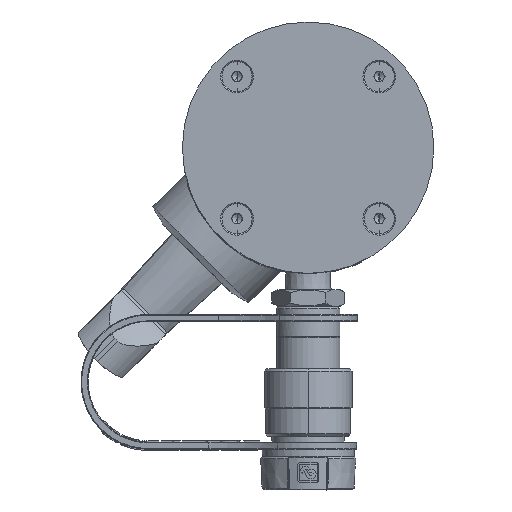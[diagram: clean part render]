
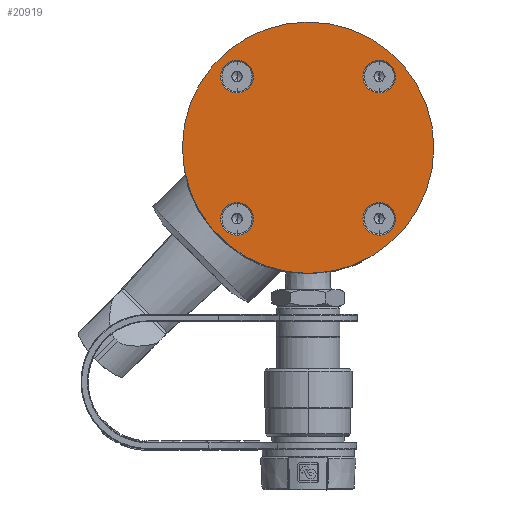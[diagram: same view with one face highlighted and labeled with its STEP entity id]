
A CAD part, left-side view. The second image highlights one B-rep face of the part: STEP entity #20919.
In plain terms, the highlighted planar face has unit normal (-1, 0, 0).
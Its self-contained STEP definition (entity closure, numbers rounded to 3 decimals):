
#72=CARTESIAN_POINT('',(-378.2,0.,0.));
#73=DIRECTION('',(-1.,0.,0.));
#74=DIRECTION('',(0.,0.,1.));
#75=AXIS2_PLACEMENT_3D('',#72,#73,#74);
#77=CARTESIAN_POINT('',(-378.2,0.,0.));
#78=DIRECTION('',(-1.,0.,0.));
#79=DIRECTION('',(0.,0.,-1.));
#80=AXIS2_PLACEMENT_3D('',#77,#78,#79);
#82=CARTESIAN_POINT('',(-378.2,28.284,28.284));
#83=DIRECTION('',(1.,0.,0.));
#84=DIRECTION('',(0.,0.,1.));
#85=AXIS2_PLACEMENT_3D('',#82,#83,#84);
#87=CARTESIAN_POINT('',(-378.2,28.284,28.284));
#88=DIRECTION('',(1.,0.,0.));
#89=DIRECTION('',(0.,0.,-1.));
#90=AXIS2_PLACEMENT_3D('',#87,#88,#89);
#92=CARTESIAN_POINT('',(-378.2,-28.284,28.284));
#93=DIRECTION('',(1.,0.,0.));
#94=DIRECTION('',(0.,0.,1.));
#95=AXIS2_PLACEMENT_3D('',#92,#93,#94);
#97=CARTESIAN_POINT('',(-378.2,-28.284,28.284));
#98=DIRECTION('',(1.,0.,0.));
#99=DIRECTION('',(0.,0.,-1.));
#100=AXIS2_PLACEMENT_3D('',#97,#98,#99);
#102=CARTESIAN_POINT('',(-378.2,-28.284,-28.284));
#103=DIRECTION('',(1.,0.,0.));
#104=DIRECTION('',(0.,0.,1.));
#105=AXIS2_PLACEMENT_3D('',#102,#103,#104);
#107=CARTESIAN_POINT('',(-378.2,-28.284,-28.284));
#108=DIRECTION('',(1.,0.,0.));
#109=DIRECTION('',(0.,0.,-1.));
#110=AXIS2_PLACEMENT_3D('',#107,#108,#109);
#112=CARTESIAN_POINT('',(-378.2,28.284,-28.284));
#113=DIRECTION('',(1.,0.,0.));
#114=DIRECTION('',(0.,0.,1.));
#115=AXIS2_PLACEMENT_3D('',#112,#113,#114);
#117=CARTESIAN_POINT('',(-378.2,28.284,-28.284));
#118=DIRECTION('',(1.,0.,0.));
#119=DIRECTION('',(0.,0.,-1.));
#120=AXIS2_PLACEMENT_3D('',#117,#118,#119);
#18468=CARTESIAN_POINT('',(-378.2,0.,50.));
#18469=CARTESIAN_POINT('',(-378.2,0.,-50.));
#18470=VERTEX_POINT('',#18468);
#18471=VERTEX_POINT('',#18469);
#18476=CARTESIAN_POINT('',(-378.2,28.284,34.784));
#18477=CARTESIAN_POINT('',(-378.2,28.284,21.784));
#18478=VERTEX_POINT('',#18476);
#18479=VERTEX_POINT('',#18477);
#18484=CARTESIAN_POINT('',(-378.2,-28.284,34.784));
#18485=CARTESIAN_POINT('',(-378.2,-28.284,21.784));
#18486=VERTEX_POINT('',#18484);
#18487=VERTEX_POINT('',#18485);
#18492=CARTESIAN_POINT('',(-378.2,-28.284,-21.784));
#18493=CARTESIAN_POINT('',(-378.2,-28.284,-34.784));
#18494=VERTEX_POINT('',#18492);
#18495=VERTEX_POINT('',#18493);
#18500=CARTESIAN_POINT('',(-378.2,28.284,-21.784));
#18501=CARTESIAN_POINT('',(-378.2,28.284,-34.784));
#18502=VERTEX_POINT('',#18500);
#18503=VERTEX_POINT('',#18501);
#20886=CARTESIAN_POINT('',(-378.2,0.,0.));
#20887=DIRECTION('',(-1.,0.,0.));
#20888=DIRECTION('',(0.,0.,1.));
#20889=AXIS2_PLACEMENT_3D('',#20886,#20887,#20888);
#20890=PLANE('',#20889);
#20891=ORIENTED_EDGE('',*,*,#20866,.F.);
#20892=ORIENTED_EDGE('',*,*,#20880,.F.);
#20893=EDGE_LOOP('',(#20891,#20892));
#20894=FACE_OUTER_BOUND('',#20893,.F.);
#20896=ORIENTED_EDGE('',*,*,#20895,.F.);
#20898=ORIENTED_EDGE('',*,*,#20897,.F.);
#20899=EDGE_LOOP('',(#20896,#20898));
#20900=FACE_BOUND('',#20899,.F.);
#20902=ORIENTED_EDGE('',*,*,#20901,.F.);
#20904=ORIENTED_EDGE('',*,*,#20903,.F.);
#20905=EDGE_LOOP('',(#20902,#20904));
#20906=FACE_BOUND('',#20905,.F.);
#20908=ORIENTED_EDGE('',*,*,#20907,.F.);
#20910=ORIENTED_EDGE('',*,*,#20909,.F.);
#20911=EDGE_LOOP('',(#20908,#20910));
#20912=FACE_BOUND('',#20911,.F.);
#20914=ORIENTED_EDGE('',*,*,#20913,.F.);
#20916=ORIENTED_EDGE('',*,*,#20915,.F.);
#20917=EDGE_LOOP('',(#20914,#20916));
#20918=FACE_BOUND('',#20917,.F.);
#20919=ADVANCED_FACE('',(#20894,#20900,#20906,#20912,#20918),#20890,.T.);
#76=CIRCLE('',#75,50.);
#81=CIRCLE('',#80,50.);
#86=CIRCLE('',#85,6.5);
#91=CIRCLE('',#90,6.5);
#96=CIRCLE('',#95,6.5);
#101=CIRCLE('',#100,6.5);
#106=CIRCLE('',#105,6.5);
#111=CIRCLE('',#110,6.5);
#116=CIRCLE('',#115,6.5);
#121=CIRCLE('',#120,6.5);
#20866=EDGE_CURVE('',#18470,#18471,#76,.T.);
#20880=EDGE_CURVE('',#18471,#18470,#81,.T.);
#20895=EDGE_CURVE('',#18478,#18479,#86,.T.);
#20897=EDGE_CURVE('',#18479,#18478,#91,.T.);
#20901=EDGE_CURVE('',#18486,#18487,#96,.T.);
#20903=EDGE_CURVE('',#18487,#18486,#101,.T.);
#20907=EDGE_CURVE('',#18494,#18495,#106,.T.);
#20909=EDGE_CURVE('',#18495,#18494,#111,.T.);
#20913=EDGE_CURVE('',#18502,#18503,#116,.T.);
#20915=EDGE_CURVE('',#18503,#18502,#121,.T.);
